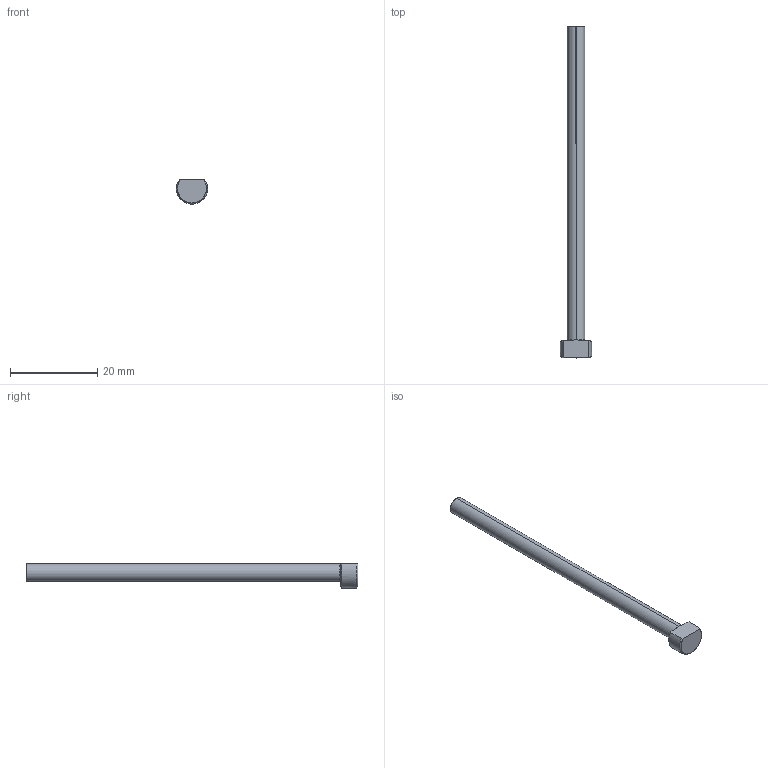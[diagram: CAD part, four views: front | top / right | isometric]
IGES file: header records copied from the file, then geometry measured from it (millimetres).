
Start section: SolidWorks IGES file using analytic representation for surfaces
Global section: file name: C:\Users\pcic_01KAK2013\OneDrive - Progressive Components\Desktop\Daily CAD\WEBSITE CAD\PRO SAVE EXPORT\M-2 Straight\EPM156L3-K.igs; native system: SolidWorks 2020; preprocessor: SolidWorks 2020; author: pcic_01KAK2013; date: 240228.151524; units: inch
Bounding box: 7.12 x 76.2 x 5.55 mm (x, y, z)
Surface area: 1045.7 mm2 (no closed solid volume)
Topology: 0 solids, 0 shells, 12 faces, 155 edges, 155 vertices
Faces by surface type: revolution 6, bspline 6
